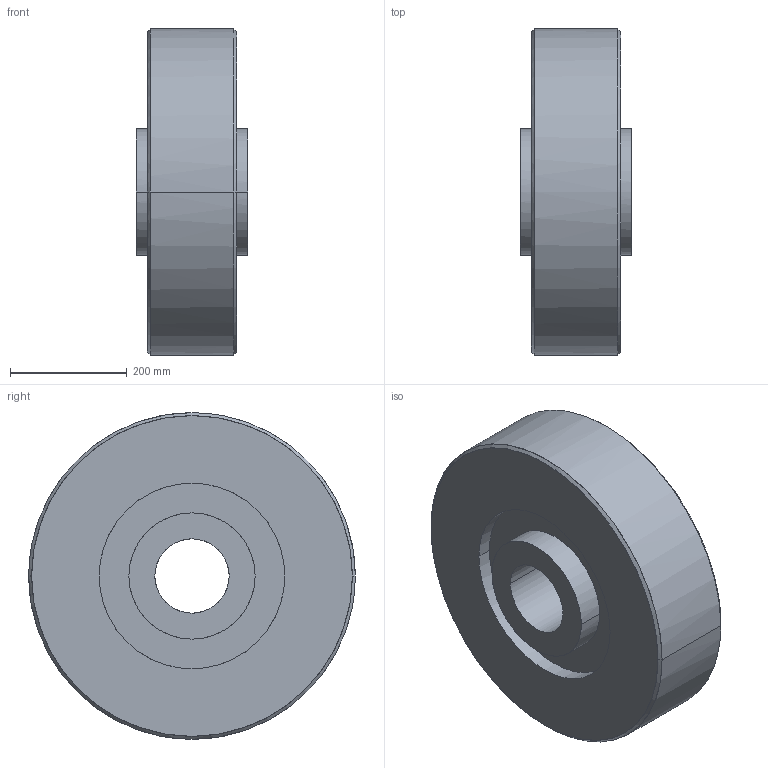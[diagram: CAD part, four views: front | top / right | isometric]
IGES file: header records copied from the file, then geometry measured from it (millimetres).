
Global section: native system: Kubotek KeyCreator; preprocessor: KCM Version 1.1.1442.0; author: KeyCreator User; organization: Self; date: 20170713.013655; units: inch
Bounding box: 190.5 x 558.8 x 558.8 mm (x, y, z)
Surface area: 909471.9 mm2 (no closed solid volume)
Topology: 0 solids, 0 shells, 22 faces, 144 edges, 144 vertices
Faces by surface type: bspline 22
